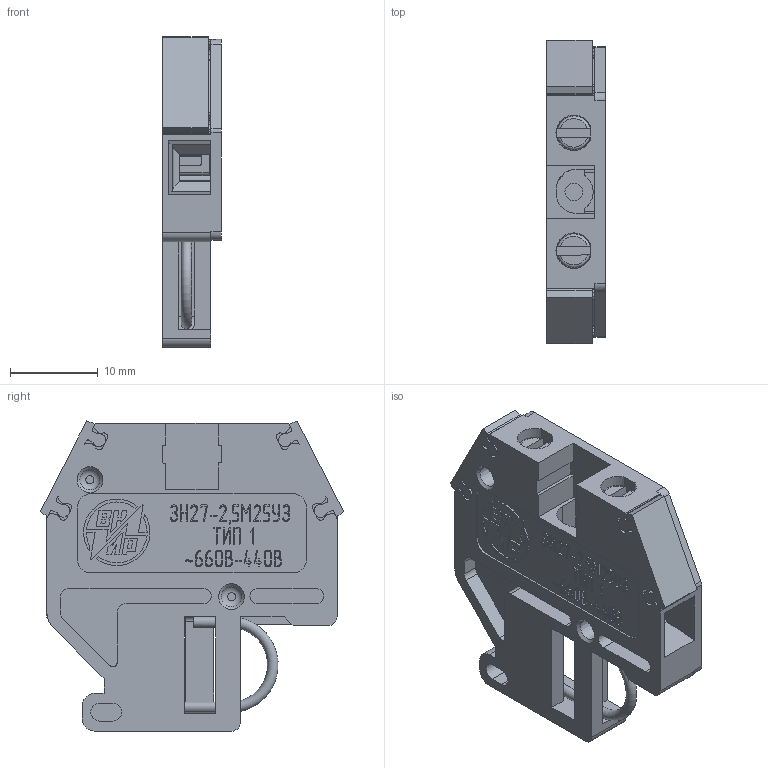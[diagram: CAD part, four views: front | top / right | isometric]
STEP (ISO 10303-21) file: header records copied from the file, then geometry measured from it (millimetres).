
FILE_DESCRIPTION(('STEP AP242'), '1');
FILE_NAME('ÇÍ27-2,5Ì25 òèï 1 ñ êðûøêîé ÊÒ8', '', ('UNSPECIFIED'), ('UNSPECIFIED'), 'ASCON STEP Converter 1.6', 'ASCON Math Kernel', '');
FILE_SCHEMA(('AP242_MANAGED_MODEL_BASED_3D_ENGINEERING_MIM_LF { 1 0 10303 442 1 1 4 }'));
Length unit declared in the file: millimetre
Bounding box: 6.7 x 34.49 x 35.29 mm (x, y, z)
Volume: 3970.6 mm3; surface area: 5498.3 mm2
Topology: 2 solids, 2 shells, 2312 faces, 6750 edges, 4484 vertices
Faces by surface type: plane 1500, cylinder 785, cone 16, torus 11
Full cylindrical faces by diameter (mm): 1.2 x4, 2 x2, 2.013 x1, 2.6 x2, 2.621 x2, 3 x2
Entity records: 95490 total; most frequent: CARTESIAN_POINT 14318, ORIENTED_EDGE 13424, DIRECTION 12880, EDGE_CURVE 6712, LINE 5052, VECTOR 5052, VERTEX_POINT 4480, AXIS2_PLACEMENT_3D 3914
